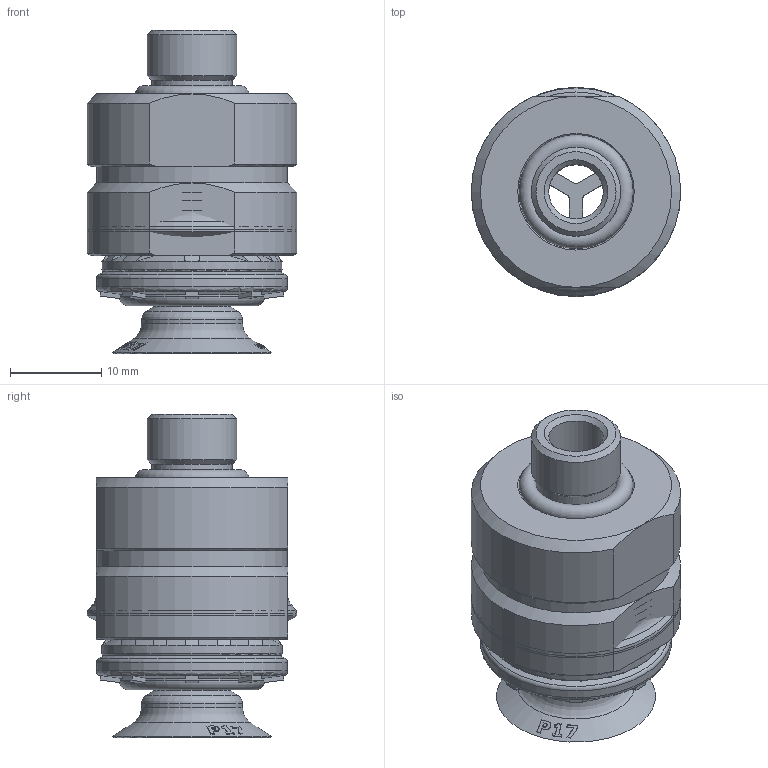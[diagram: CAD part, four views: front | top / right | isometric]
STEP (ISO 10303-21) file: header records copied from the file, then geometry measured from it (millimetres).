
FILE_DESCRIPTION( ( 'Unknown' ), '1' );
FILE_NAME( 'C:/Documents and Settings/Administrator/官帕 拳搁/Magic Cup (Dim)/B1.5/P TYPE/B1.5-20/B1.5-20-P17-N6-D-F2-18M.stp', 'Unknown', ( 'Unknown' ), ( 'Unknown' ), 'XStep 1.0', 'Unknown', ' ' );
FILE_SCHEMA( ( 'automotive_design' ) );
Length unit declared in the file: millimetre
Products named in the file (8): Assem1; Assem2; Assem3; B1.5-20(DIM); 20-18M(DIM); 18M-Oring(DIM); 赤20 STOPPER ; P17
Bounding box: 23 x 23 x 35.55 mm (x, y, z)
Surface area: 22246 mm2
Topology: 15 solids, 15 shells, 1947 faces, 4989 edges, 3183 vertices
Faces by surface type: bspline 606, plane 537, cone 390, torus 267, cylinder 147
Full cylindrical faces by diameter (mm): 6 x6, 8.8 x3, 9.2 x3, 9.8 x6, 11 x3, 11.099 x3, 11.9 x6, 12.4 x3, 13 x3, 13.4 x6, 14.4 x3, 15 x6, 15.7 x6, 16 x3, 17 x6, 17.5 x3, 17.527 x3, 19.8 x3, 21 x6, 23 x3
Entity records: 25698 total; most frequent: CARTESIAN_POINT 12040, ORIENTED_EDGE 3134, DIRECTION 2002, EDGE_CURVE 1567, VERTEX_POINT 1051, B_SPLINE_CURVE_WITH_KNOTS 924, AXIS2_PLACEMENT_3D 904, EDGE_LOOP 784
